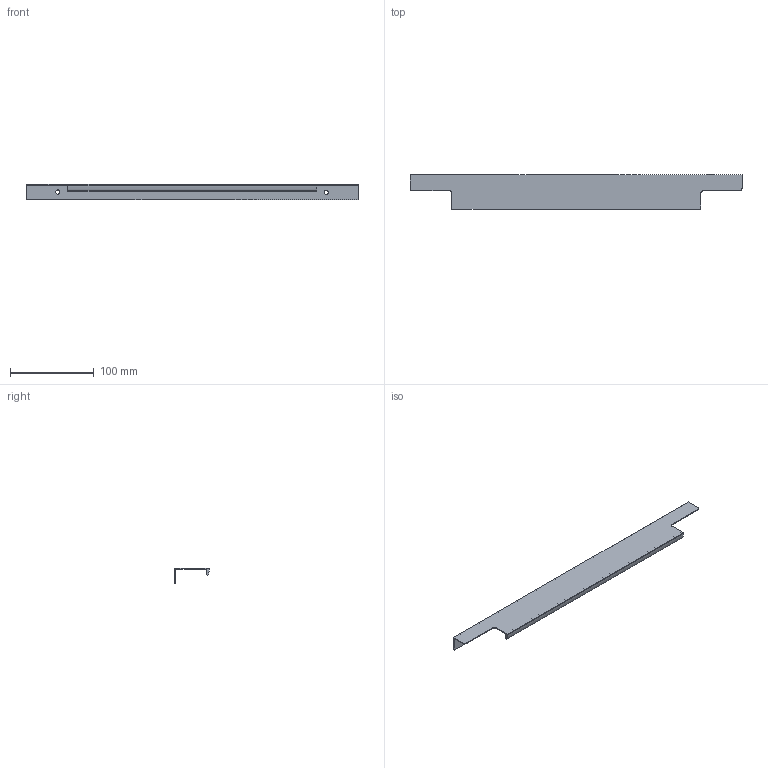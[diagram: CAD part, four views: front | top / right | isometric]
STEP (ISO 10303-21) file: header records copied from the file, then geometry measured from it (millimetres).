
FILE_DESCRIPTION(/* description */ (''),/* implementation_level */ '2;1');
FILE_NAME(/* name */ 'D:\$WorkingFolder\Designs\Meblowka\uchwyty\UA-LIND-...-\UA-LIND-...stp',/* time_stamp */ '2020-03-04T11:45:33+01:00',/* author */ ('ElizaL'),/* organization */ (''),/* preprocessor_version */ 'ST-DEVELOPER v18',/* originating_system */ 'Autodesk Inventor 2020',/* authorisation */ '');
FILE_SCHEMA (('AUTOMOTIVE_DESIGN { 1 0 10303 214 3 1 1 }'));
Length unit declared in the file: millimetre
Products named in the file (1): UA-LIND-..
Bounding box: 396 x 41 x 18 mm (x, y, z)
Volume: 25950.6 mm3; surface area: 46092 mm2
Topology: 1 solids, 1 shells, 21 faces, 57 edges, 38 vertices
Faces by surface type: plane 13, cylinder 6, cone 2
Entity records: 725 total; most frequent: DIRECTION 117, CARTESIAN_POINT 117, ORIENTED_EDGE 114, EDGE_CURVE 57, LINE 41, VECTOR 41, VERTEX_POINT 38, AXIS2_PLACEMENT_3D 38
